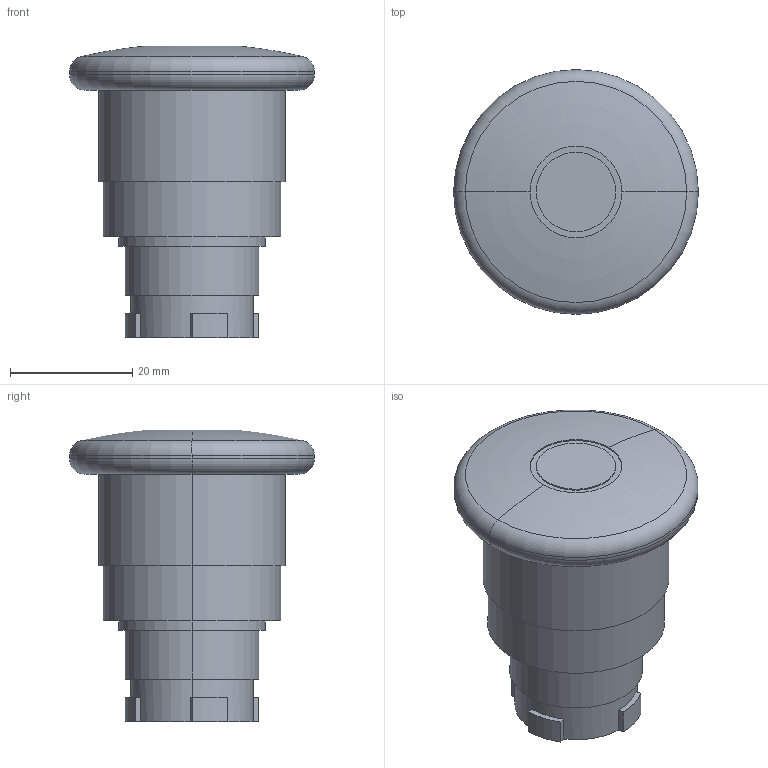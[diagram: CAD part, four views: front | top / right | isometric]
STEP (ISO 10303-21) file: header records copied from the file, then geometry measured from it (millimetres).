
FILE_DESCRIPTION (( 'STEP AP214' ), '1' );
FILE_NAME ('3D 斁麧錪 MTB2-BT4.STEP', '2017-05-18T13:57:36', ( 'adm' ), ( 'MICROSOFT' ), 'SwSTEP 2.0', 'SolidWorks 2011', '' );
FILE_SCHEMA (( 'AUTOMOTIVE_DESIGN' ));
Length unit declared in the file: millimetre
Products named in the file (1): 3D 斁麧錪 MTB2-BT4
Bounding box: 40 x 40 x 47.7 mm (x, y, z)
Volume: 29768 mm3; surface area: 7724.5 mm2
Topology: 1 solids, 2 shells, 80 faces, 184 edges, 120 vertices
Faces by surface type: plane 40, cylinder 34, torus 6
Entity records: 3206 total; most frequent: DIRECTION 432, CARTESIAN_POINT 385, ORIENTED_EDGE 368, EDGE_CURVE 184, AXIS2_PLACEMENT_3D 167, VERTEX_POINT 120, VECTOR 98, LINE 98
